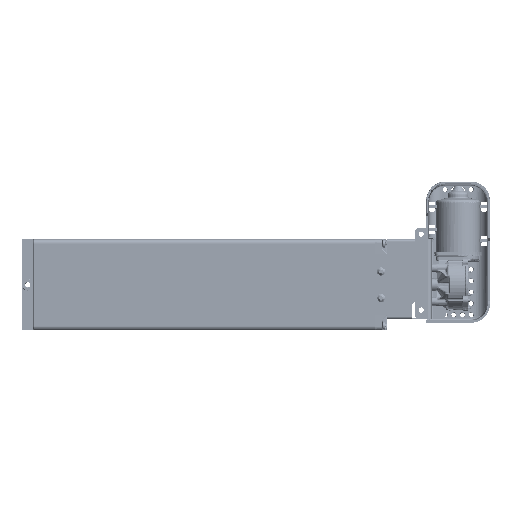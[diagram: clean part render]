
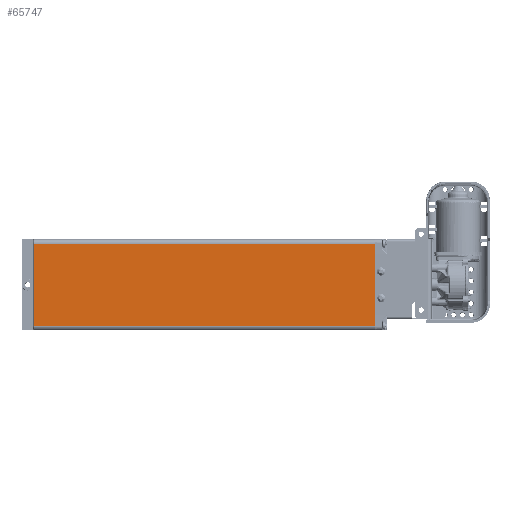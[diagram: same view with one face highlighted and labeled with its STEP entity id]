
A CAD part, top view. The second image highlights one B-rep face of the part: STEP entity #65747.
In plain terms, the highlighted planar face has unit normal (0, 0, 1).
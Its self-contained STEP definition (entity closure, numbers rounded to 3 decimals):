
#5903=LINE('',#113302,#8634);
#5904=LINE('',#113305,#8635);
#5905=LINE('',#113307,#8636);
#5906=LINE('',#113309,#8637);
#8634=VECTOR('',#76628,1000.);
#8635=VECTOR('',#76629,1000.);
#8636=VECTOR('',#76630,1000.);
#8637=VECTOR('',#76631,1000.);
#10754=PLANE('',#69620);
#15907=ORIENTED_EDGE('',*,*,#29793,.T.);
#15908=ORIENTED_EDGE('',*,*,#29794,.T.);
#15909=ORIENTED_EDGE('',*,*,#29795,.T.);
#15910=ORIENTED_EDGE('',*,*,#29796,.T.);
#29793=EDGE_CURVE('',#36963,#36964,#5903,.F.);
#29794=EDGE_CURVE('',#36964,#36965,#5904,.T.);
#29795=EDGE_CURVE('',#36965,#36966,#5905,.T.);
#29796=EDGE_CURVE('',#36966,#36963,#5906,.F.);
#36963=VERTEX_POINT('',#113303);
#36964=VERTEX_POINT('',#113304);
#36965=VERTEX_POINT('',#113306);
#36966=VERTEX_POINT('',#113308);
#43916=EDGE_LOOP('',(#15907,#15908,#15909,#15910));
#47934=FACE_BOUND('',#43916,.T.);
#65747=ADVANCED_FACE('',(#47934),#10754,.T.);
#69620=AXIS2_PLACEMENT_3D('',#113301,#76626,#76627);
#76626=DIRECTION('',(0.,0.,1.));
#76627=DIRECTION('',(1.,0.,0.));
#76628=DIRECTION('',(0.,-1.,0.));
#76629=DIRECTION('',(-1.,0.,0.));
#76630=DIRECTION('',(0.,-1.,0.));
#76631=DIRECTION('',(-1.,0.,0.));
#113301=CARTESIAN_POINT('',(60.,450.5,30.));
#113302=CARTESIAN_POINT('',(54.,450.5,30.));
#113303=CARTESIAN_POINT('',(54.,0.5,30.));
#113304=CARTESIAN_POINT('',(54.,450.,30.));
#113305=CARTESIAN_POINT('',(60.,450.,30.));
#113306=CARTESIAN_POINT('',(-54.,450.,30.));
#113307=CARTESIAN_POINT('',(-54.,450.5,30.));
#113308=CARTESIAN_POINT('',(-54.,0.5,30.));
#113309=CARTESIAN_POINT('',(54.,0.5,30.));
